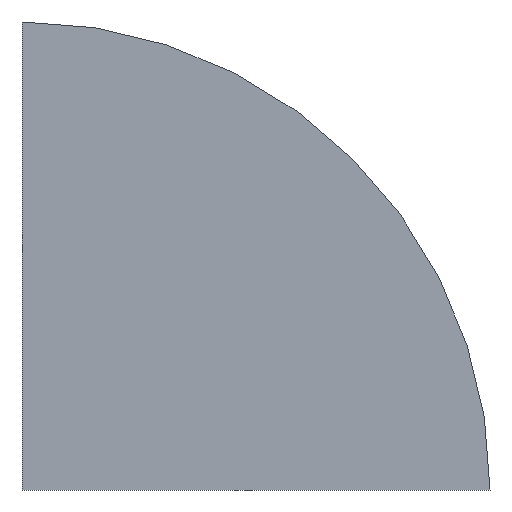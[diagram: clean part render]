
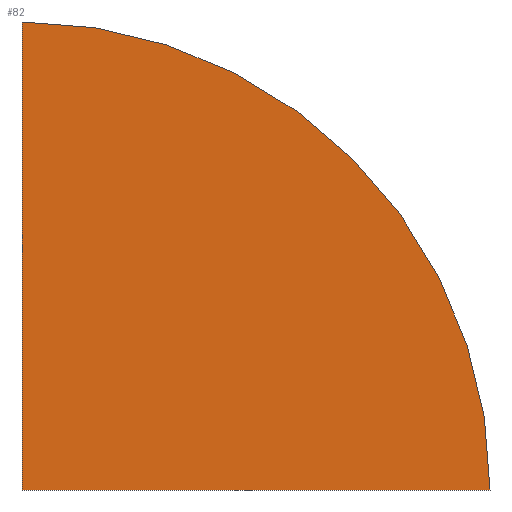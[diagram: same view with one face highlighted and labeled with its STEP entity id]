
A CAD part, front view. The second image highlights one B-rep face of the part: STEP entity #82.
In plain terms, the highlighted planar face has unit normal (0, -1, 0).
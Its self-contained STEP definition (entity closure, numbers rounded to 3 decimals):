
#51=CARTESIAN_POINT('Axis2P3D Location',(0.,0.,0.)) ;
#56=CARTESIAN_POINT('Line Origine',(53.5,0.,0.)) ;
#60=CARTESIAN_POINT('Vertex',(0.,0.,0.)) ;
#62=CARTESIAN_POINT('Vertex',(107.,0.,0.)) ;
#65=CARTESIAN_POINT('Axis2P3D Location',(0.,0.,0.)) ;
#69=CARTESIAN_POINT('Vertex',(0.,0.,107.)) ;
#72=CARTESIAN_POINT('Line Origine',(0.,0.,53.5)) ;
#52=DIRECTION('Axis2P3D Direction',(0.,-1.,0.)) ;
#53=DIRECTION('Axis2P3D XDirection',(1.,0.,0.)) ;
#57=DIRECTION('Vector Direction',(1.,0.,0.)) ;
#66=DIRECTION('Axis2P3D Direction',(0.,-1.,0.)) ;
#73=DIRECTION('Vector Direction',(0.,0.,1.)) ;
#54=AXIS2_PLACEMENT_3D('Plane Axis2P3D',#51,#52,#53) ;
#67=AXIS2_PLACEMENT_3D('Circle Axis2P3D',#65,#66,$) ;
#78=ORIENTED_EDGE('',*,*,#64,.T.) ;
#79=ORIENTED_EDGE('',*,*,#71,.T.) ;
#80=ORIENTED_EDGE('',*,*,#76,.F.) ;
#58=VECTOR('Line Direction',#57,1.) ;
#74=VECTOR('Line Direction',#73,1.) ;
#82=ADVANCED_FACE('PartBody',(#81),#55,.T.) ;
#68=CIRCLE('generated circle',#67,107.) ;
#64=EDGE_CURVE('',#61,#63,#59,.T.) ;
#71=EDGE_CURVE('',#63,#70,#68,.T.) ;
#76=EDGE_CURVE('',#61,#70,#75,.T.) ;
#77=EDGE_LOOP('',(#78,#79,#80)) ;
#81=FACE_OUTER_BOUND('',#77,.T.) ;
#59=LINE('Line',#56,#58) ;
#75=LINE('Line',#72,#74) ;
#55=PLANE('',#54) ;
#61=VERTEX_POINT('',#60) ;
#63=VERTEX_POINT('',#62) ;
#70=VERTEX_POINT('',#69) ;
